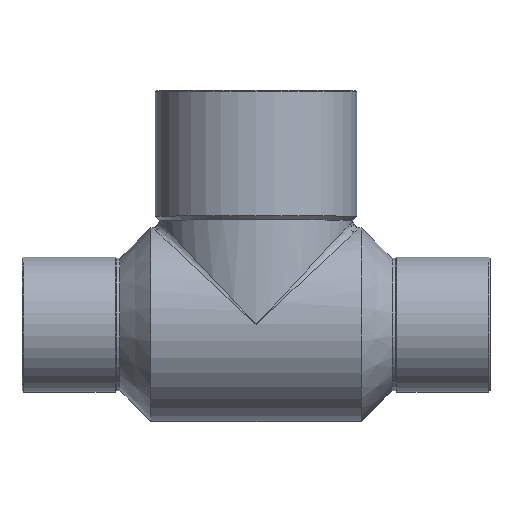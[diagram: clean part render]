
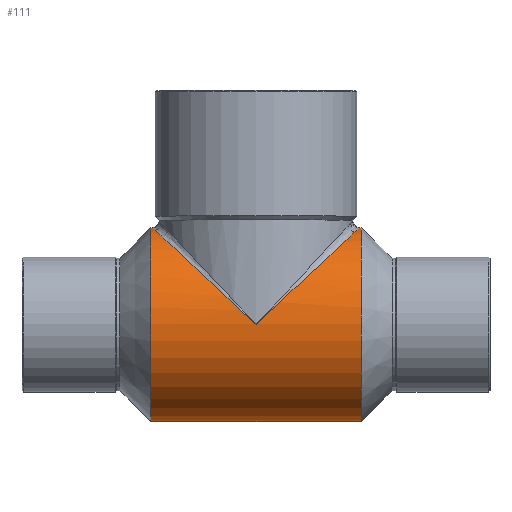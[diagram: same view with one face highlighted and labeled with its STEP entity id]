
A CAD part, top view. The second image highlights one B-rep face of the part: STEP entity #111.
In plain terms, the highlighted cylindrical face has radius 14.5 mm (diameter 29 mm), a partial arc.
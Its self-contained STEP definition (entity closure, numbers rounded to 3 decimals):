
#44=CARTESIAN_POINT('',(0.0,0.,0.0));
#45=DIRECTION('',(1.0,0.,0.0));
#46=DIRECTION('',(0.0,1.0,0.0));
#47=AXIS2_PLACEMENT_3D('',#44,#45,#46);
#48=CYLINDRICAL_SURFACE('',#47,14.5);
#49=CARTESIAN_POINT('',(-15.762,14.5,0.0));
#50=VERTEX_POINT('',#49);
#51=CARTESIAN_POINT('',(-15.5,14.5,0.));
#52=VERTEX_POINT('',#51);
#53=CARTESIAN_POINT('',(-15.762,14.5,0.0));
#54=DIRECTION('',(1.0,0.0,0.0));
#55=VECTOR('',#54,0.262);
#56=LINE('',#53,#55);
#57=EDGE_CURVE('',#50,#52,#56,.T.);
#58=ORIENTED_EDGE('',*,*,#57,.F.);
#59=CARTESIAN_POINT('',(-15.762,-14.5,0.));
#60=VERTEX_POINT('',#59);
#61=CARTESIAN_POINT('',(-15.762,0.,0.0));
#62=DIRECTION('',(1.0,0.0,0.0));
#63=DIRECTION('',(0.0,1.0,0.0));
#64=AXIS2_PLACEMENT_3D('',#61,#62,#63);
#65=CIRCLE('',#64,14.5);
#66=EDGE_CURVE('',#50,#60,#65,.T.);
#67=ORIENTED_EDGE('',*,*,#66,.T.);
#68=CARTESIAN_POINT('',(15.762,-14.5,0.));
#69=VERTEX_POINT('',#68);
#70=CARTESIAN_POINT('',(15.762,-14.5,0.));
#71=DIRECTION('',(-1.0,0.0,0.0));
#72=VECTOR('',#71,31.525);
#73=LINE('',#70,#72);
#74=EDGE_CURVE('',#69,#60,#73,.T.);
#75=ORIENTED_EDGE('',*,*,#74,.F.);
#76=CARTESIAN_POINT('',(15.762,14.5,0.0));
#77=VERTEX_POINT('',#76);
#78=CARTESIAN_POINT('',(15.762,0.,0.0));
#79=DIRECTION('',(-1.0,0.0,0.0));
#80=DIRECTION('',(0.0,1.0,0.0));
#81=AXIS2_PLACEMENT_3D('',#78,#79,#80);
#82=CIRCLE('',#81,14.5);
#83=EDGE_CURVE('',#69,#77,#82,.T.);
#84=ORIENTED_EDGE('',*,*,#83,.T.);
#85=CARTESIAN_POINT('',(15.5,14.5,0.));
#86=VERTEX_POINT('',#85);
#87=CARTESIAN_POINT('',(15.5,14.5,0.));
#88=DIRECTION('',(1.0,0.0,0.0));
#89=VECTOR('',#88,0.262);
#90=LINE('',#87,#89);
#91=EDGE_CURVE('',#86,#77,#90,.T.);
#92=ORIENTED_EDGE('',*,*,#91,.F.);
#93=CARTESIAN_POINT('',(0.,0.,14.5));
#94=VERTEX_POINT('',#93);
#95=CARTESIAN_POINT('',(0.0,0.,0.0));
#96=DIRECTION('',(-0.683,0.73,0.));
#97=DIRECTION('',(0.73,0.683,0.0));
#98=AXIS2_PLACEMENT_3D('',#95,#96,#97);
#99=ELLIPSE('',#98,21.225,14.5);
#100=EDGE_CURVE('',#94,#86,#99,.T.);
#101=ORIENTED_EDGE('',*,*,#100,.F.);
#102=CARTESIAN_POINT('',(0.0,0.,0.0));
#103=DIRECTION('',(0.683,0.73,0.));
#104=DIRECTION('',(-0.73,0.683,0.0));
#105=AXIS2_PLACEMENT_3D('',#102,#103,#104);
#106=ELLIPSE('',#105,21.225,14.5);
#107=EDGE_CURVE('',#52,#94,#106,.T.);
#108=ORIENTED_EDGE('',*,*,#107,.F.);
#109=EDGE_LOOP('',(#58,#67,#75,#84,#92,#101,#108));
#110=FACE_OUTER_BOUND('',#109,.T.);
#111=ADVANCED_FACE('',(#110),#48,.T.);
